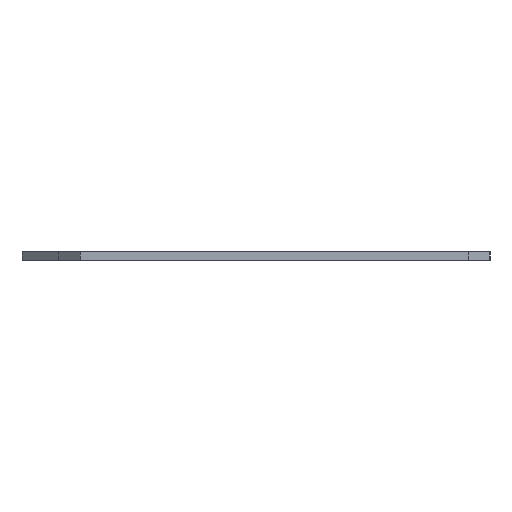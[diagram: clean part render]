
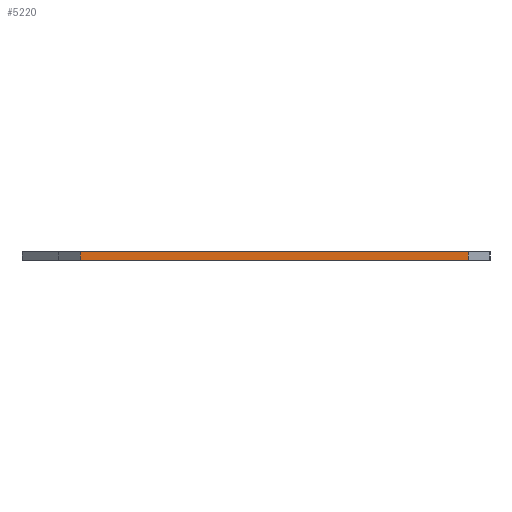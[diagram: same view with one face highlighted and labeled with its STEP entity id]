
A CAD part, left-side view. The second image highlights one B-rep face of the part: STEP entity #5220.
In plain terms, the highlighted planar face has unit normal (-1, 0, 0).
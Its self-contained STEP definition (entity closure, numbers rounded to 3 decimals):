
#44 = PLANE('',#45);
#45 = AXIS2_PLACEMENT_3D('',#46,#47,#48);
#46 = CARTESIAN_POINT('',(-58.,-39.,6.4));
#47 = DIRECTION('',(0.707,0.707,-0.));
#48 = DIRECTION('',(0.707,-0.707,0.));
#72 = PLANE('',#73);
#73 = AXIS2_PLACEMENT_3D('',#74,#75,#76);
#74 = CARTESIAN_POINT('',(0.956,-1.253,7.9));
#75 = DIRECTION('',(0.,0.,1.));
#76 = DIRECTION('',(1.,0.,0.));
#126 = PLANE('',#127);
#127 = AXIS2_PLACEMENT_3D('',#128,#129,#130);
#128 = CARTESIAN_POINT('',(0.956,-1.253,6.4));
#129 = DIRECTION('',(0.,0.,1.));
#130 = DIRECTION('',(1.,0.,0.));
#141 = EDGE_CURVE('',#142,#144,#146,.T.);
#142 = VERTEX_POINT('',#143);
#143 = CARTESIAN_POINT('',(-58.,-39.,6.4));
#144 = VERTEX_POINT('',#145);
#145 = CARTESIAN_POINT('',(-58.,-39.,7.9));
#146 = SURFACE_CURVE('',#147,(#151,#158),.PCURVE_S1.);
#147 = LINE('',#148,#149);
#148 = CARTESIAN_POINT('',(-58.,-39.,6.4));
#149 = VECTOR('',#150,1.);
#150 = DIRECTION('',(0.,0.,1.));
#151 = PCURVE('',#44,#152);
#152 = DEFINITIONAL_REPRESENTATION('',(#153),#157);
#153 = LINE('',#154,#155);
#154 = CARTESIAN_POINT('',(0.,0.));
#155 = VECTOR('',#156,1.);
#156 = DIRECTION('',(0.,-1.));
#157 = ( GEOMETRIC_REPRESENTATION_CONTEXT(2) 
PARAMETRIC_REPRESENTATION_CONTEXT() REPRESENTATION_CONTEXT('2D SPACE',''
  ) );
#158 = PCURVE('',#159,#164);
#159 = PLANE('',#160);
#160 = AXIS2_PLACEMENT_3D('',#161,#162,#163);
#161 = CARTESIAN_POINT('',(-58.,32.25,6.4));
#162 = DIRECTION('',(1.,0.,-0.));
#163 = DIRECTION('',(0.,-1.,0.));
#164 = DEFINITIONAL_REPRESENTATION('',(#165),#169);
#165 = LINE('',#166,#167);
#166 = CARTESIAN_POINT('',(71.25,0.));
#167 = VECTOR('',#168,1.);
#168 = DIRECTION('',(0.,-1.));
#169 = ( GEOMETRIC_REPRESENTATION_CONTEXT(2) 
PARAMETRIC_REPRESENTATION_CONTEXT() REPRESENTATION_CONTEXT('2D SPACE',''
  ) );
#431 = VERTEX_POINT('',#432);
#432 = CARTESIAN_POINT('',(-58.,32.25,6.4));
#446 = PLANE('',#447);
#447 = AXIS2_PLACEMENT_3D('',#448,#449,#450);
#448 = CARTESIAN_POINT('',(-54.,36.25,6.4));
#449 = DIRECTION('',(0.707,-0.707,0.));
#450 = DIRECTION('',(-0.707,-0.707,0.));
#458 = EDGE_CURVE('',#431,#142,#459,.T.);
#459 = SURFACE_CURVE('',#460,(#464,#471),.PCURVE_S1.);
#460 = LINE('',#461,#462);
#461 = CARTESIAN_POINT('',(-58.,32.25,6.4));
#462 = VECTOR('',#463,1.);
#463 = DIRECTION('',(0.,-1.,0.));
#464 = PCURVE('',#126,#465);
#465 = DEFINITIONAL_REPRESENTATION('',(#466),#470);
#466 = LINE('',#467,#468);
#467 = CARTESIAN_POINT('',(-58.956,33.503));
#468 = VECTOR('',#469,1.);
#469 = DIRECTION('',(0.,-1.));
#470 = ( GEOMETRIC_REPRESENTATION_CONTEXT(2) 
PARAMETRIC_REPRESENTATION_CONTEXT() REPRESENTATION_CONTEXT('2D SPACE',''
  ) );
#471 = PCURVE('',#159,#472);
#472 = DEFINITIONAL_REPRESENTATION('',(#473),#477);
#473 = LINE('',#474,#475);
#474 = CARTESIAN_POINT('',(0.,0.));
#475 = VECTOR('',#476,1.);
#476 = DIRECTION('',(1.,0.));
#477 = ( GEOMETRIC_REPRESENTATION_CONTEXT(2) 
PARAMETRIC_REPRESENTATION_CONTEXT() REPRESENTATION_CONTEXT('2D SPACE',''
  ) );
#3099 = VERTEX_POINT('',#3100);
#3100 = CARTESIAN_POINT('',(-58.,32.25,7.9));
#3121 = EDGE_CURVE('',#3099,#144,#3122,.T.);
#3122 = SURFACE_CURVE('',#3123,(#3127,#3134),.PCURVE_S1.);
#3123 = LINE('',#3124,#3125);
#3124 = CARTESIAN_POINT('',(-58.,32.25,7.9));
#3125 = VECTOR('',#3126,1.);
#3126 = DIRECTION('',(0.,-1.,0.));
#3127 = PCURVE('',#72,#3128);
#3128 = DEFINITIONAL_REPRESENTATION('',(#3129),#3133);
#3129 = LINE('',#3130,#3131);
#3130 = CARTESIAN_POINT('',(-58.956,33.503));
#3131 = VECTOR('',#3132,1.);
#3132 = DIRECTION('',(0.,-1.));
#3133 = ( GEOMETRIC_REPRESENTATION_CONTEXT(2) 
PARAMETRIC_REPRESENTATION_CONTEXT() REPRESENTATION_CONTEXT('2D SPACE',''
  ) );
#3134 = PCURVE('',#159,#3135);
#3135 = DEFINITIONAL_REPRESENTATION('',(#3136),#3140);
#3136 = LINE('',#3137,#3138);
#3137 = CARTESIAN_POINT('',(0.,-1.5));
#3138 = VECTOR('',#3139,1.);
#3139 = DIRECTION('',(1.,0.));
#3140 = ( GEOMETRIC_REPRESENTATION_CONTEXT(2) 
PARAMETRIC_REPRESENTATION_CONTEXT() REPRESENTATION_CONTEXT('2D SPACE',''
  ) );
#5220 = ADVANCED_FACE('',(#5221),#159,.F.);
#5221 = FACE_BOUND('',#5222,.F.);
#5222 = EDGE_LOOP('',(#5223,#5244,#5245,#5246));
#5223 = ORIENTED_EDGE('',*,*,#5224,.T.);
#5224 = EDGE_CURVE('',#431,#3099,#5225,.T.);
#5225 = SURFACE_CURVE('',#5226,(#5230,#5237),.PCURVE_S1.);
#5226 = LINE('',#5227,#5228);
#5227 = CARTESIAN_POINT('',(-58.,32.25,6.4));
#5228 = VECTOR('',#5229,1.);
#5229 = DIRECTION('',(0.,0.,1.));
#5230 = PCURVE('',#159,#5231);
#5231 = DEFINITIONAL_REPRESENTATION('',(#5232),#5236);
#5232 = LINE('',#5233,#5234);
#5233 = CARTESIAN_POINT('',(0.,0.));
#5234 = VECTOR('',#5235,1.);
#5235 = DIRECTION('',(0.,-1.));
#5236 = ( GEOMETRIC_REPRESENTATION_CONTEXT(2) 
PARAMETRIC_REPRESENTATION_CONTEXT() REPRESENTATION_CONTEXT('2D SPACE',''
  ) );
#5237 = PCURVE('',#446,#5238);
#5238 = DEFINITIONAL_REPRESENTATION('',(#5239),#5243);
#5239 = LINE('',#5240,#5241);
#5240 = CARTESIAN_POINT('',(5.657,0.));
#5241 = VECTOR('',#5242,1.);
#5242 = DIRECTION('',(0.,-1.));
#5243 = ( GEOMETRIC_REPRESENTATION_CONTEXT(2) 
PARAMETRIC_REPRESENTATION_CONTEXT() REPRESENTATION_CONTEXT('2D SPACE',''
  ) );
#5244 = ORIENTED_EDGE('',*,*,#3121,.T.);
#5245 = ORIENTED_EDGE('',*,*,#141,.F.);
#5246 = ORIENTED_EDGE('',*,*,#458,.F.);
